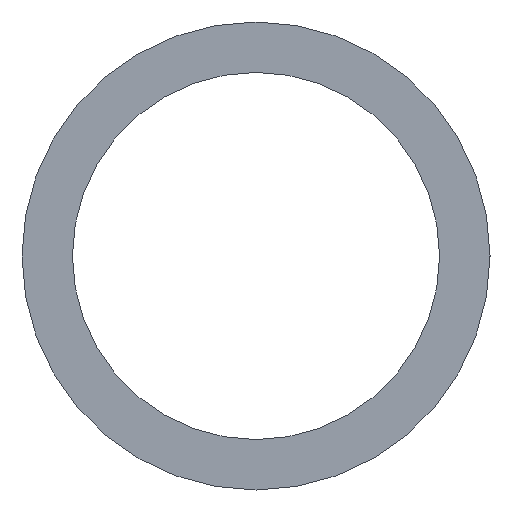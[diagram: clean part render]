
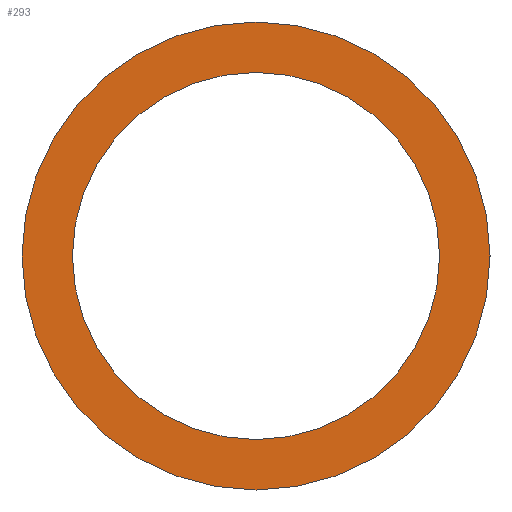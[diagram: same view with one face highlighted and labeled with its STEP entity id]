
A CAD part, left-side view. The second image highlights one B-rep face of the part: STEP entity #293.
In plain terms, the highlighted planar face has unit normal (-1, 0, 0) as drawn and (0, 0, -1) by its records, which use the part's own axes.
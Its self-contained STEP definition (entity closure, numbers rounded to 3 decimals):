
#293 = ADVANCED_FACE( '', ( #573, #574 ), #575, .F. );
#573 = FACE_OUTER_BOUND( '', #835, .T. );
#574 = FACE_BOUND( '', #836, .T. );
#575 = PLANE( '', #837 );
#835 = EDGE_LOOP( '', ( #1115 ) );
#836 = EDGE_LOOP( '', ( #1116 ) );
#837 = AXIS2_PLACEMENT_3D( '', #1117, #1118, #1119 );
#1115 = ORIENTED_EDGE( '', *, *, #1264, .T. );
#1116 = ORIENTED_EDGE( '', *, *, #1186, .F. );
#1117 = CARTESIAN_POINT( '', ( -51., 0., 0. ) );
#1118 = DIRECTION( '', ( 0., 0., 1. ) );
#1119 = DIRECTION( '', ( 1., 0., 0. ) );
#1186 = EDGE_CURVE( '', #1288, #1288, #1289, .T. );
#1264 = EDGE_CURVE( '', #1407, #1407, #1408, .T. );
#1288 = VERTEX_POINT( '', #1435 );
#1289 = CIRCLE( '', #1436, 51. );
#1407 = VERTEX_POINT( '', #1554 );
#1408 = CIRCLE( '', #1555, 65. );
#1435 = CARTESIAN_POINT( '', ( -51., 0., 0. ) );
#1436 = AXIS2_PLACEMENT_3D( '', #1583, #1584, #1585 );
#1554 = CARTESIAN_POINT( '', ( -65., 0., 0. ) );
#1555 = AXIS2_PLACEMENT_3D( '', #1706, #1707, #1708 );
#1583 = CARTESIAN_POINT( '', ( 0., 0., 0. ) );
#1584 = DIRECTION( '', ( 0., 0., -1. ) );
#1585 = DIRECTION( '', ( -1., 0., 0. ) );
#1706 = CARTESIAN_POINT( '', ( 0., 0., 0. ) );
#1707 = DIRECTION( '', ( 0., 0., -1. ) );
#1708 = DIRECTION( '', ( -1., 0., 0. ) );
